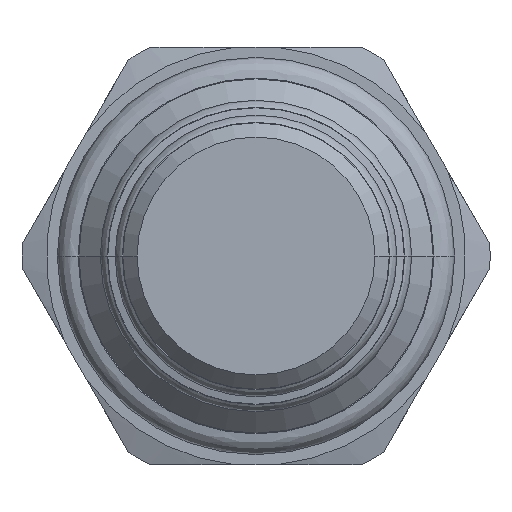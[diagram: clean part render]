
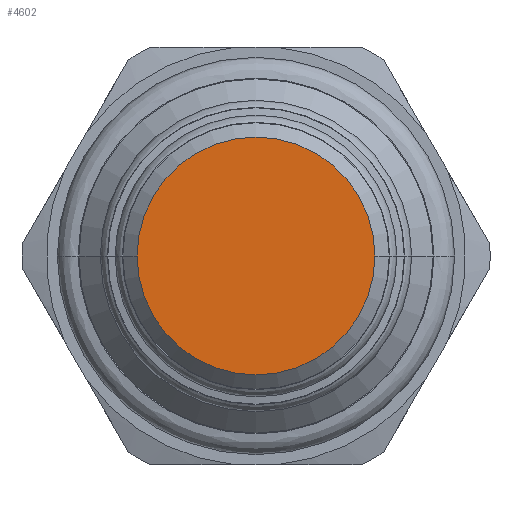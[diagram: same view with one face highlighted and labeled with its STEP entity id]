
A CAD part, front view. The second image highlights one B-rep face of the part: STEP entity #4602.
In plain terms, the highlighted planar face has unit normal (0, -1, 0).
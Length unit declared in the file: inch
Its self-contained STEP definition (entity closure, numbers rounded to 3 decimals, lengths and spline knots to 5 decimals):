
#1626=CARTESIAN_POINT('',(0.,-1.599,0.));
#1627=DIRECTION('',(0.,-1.,0.));
#1628=DIRECTION('',(-1.,0.,0.));
#1629=AXIS2_PLACEMENT_3D('',#1626,#1627,#1628);
#1636=CARTESIAN_POINT('',(0.,-1.599,0.));
#1637=DIRECTION('',(0.,-1.,0.));
#1638=DIRECTION('',(1.,0.,0.));
#1639=AXIS2_PLACEMENT_3D('',#1636,#1637,#1638);
#2020=CARTESIAN_POINT('',(-0.2495,-1.599,0.));
#2021=CARTESIAN_POINT('',(0.2495,-1.599,0.));
#2022=VERTEX_POINT('',#2020);
#2023=VERTEX_POINT('',#2021);
#4592=CARTESIAN_POINT('',(0.,-1.599,0.));
#4593=DIRECTION('',(0.,-1.,0.));
#4594=DIRECTION('',(0.,0.,-1.));
#4595=AXIS2_PLACEMENT_3D('',#4592,#4593,#4594);
#4596=PLANE('',#4595);
#4597=ORIENTED_EDGE('',*,*,#4582,.F.);
#4599=ORIENTED_EDGE('',*,*,#4598,.F.);
#4600=EDGE_LOOP('',(#4597,#4599));
#4601=FACE_OUTER_BOUND('',#4600,.F.);
#4602=ADVANCED_FACE('',(#4601),#4596,.T.);
#1630=CIRCLE('',#1629,0.2495);
#1640=CIRCLE('',#1639,0.2495);
#4582=EDGE_CURVE('',#2022,#2023,#1630,.T.);
#4598=EDGE_CURVE('',#2023,#2022,#1640,.T.);
